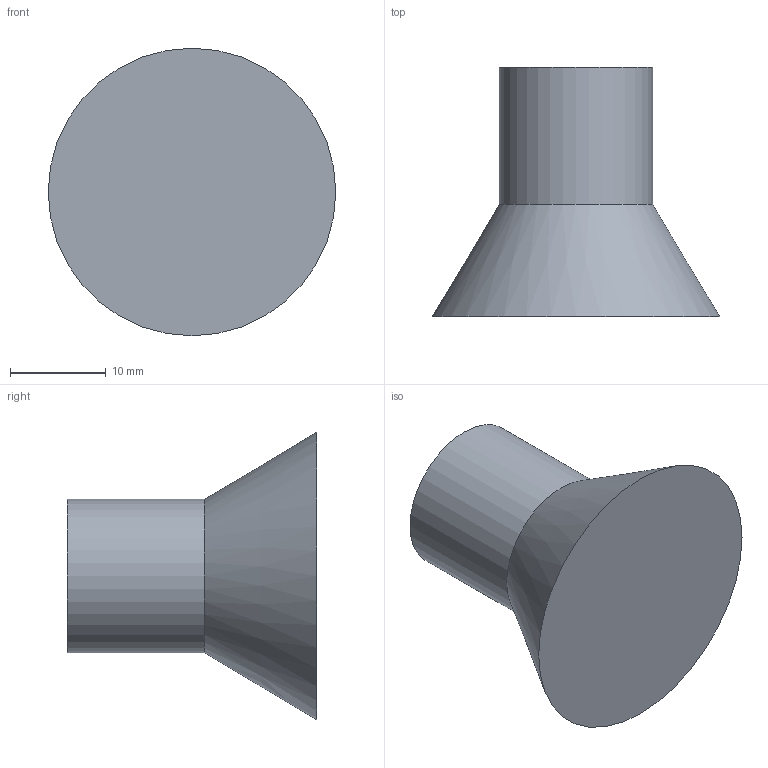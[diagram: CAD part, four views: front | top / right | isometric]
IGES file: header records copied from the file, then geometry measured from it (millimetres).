
Start section: Data from Parasolid IGES Translator 15.0.47, Copyright(c) 2006 Siemens P LM Software. All Rights Reserved.
Global section: file name: 9070735.igs; native system:  By UGS Corp.; preprocessor: XPlus GENERIC/IGES 3.0; author: Noname; organization: Noname; date: 20140122.174720; units: millimetre
Bounding box: 30 x 26 x 30 mm (x, y, z)
Surface area: 2721.8 mm2 (no closed solid volume)
Topology: 0 solids, 0 shells, 6 faces, 18 edges, 14 vertices
Faces by surface type: extrusion 3, revolution 3
